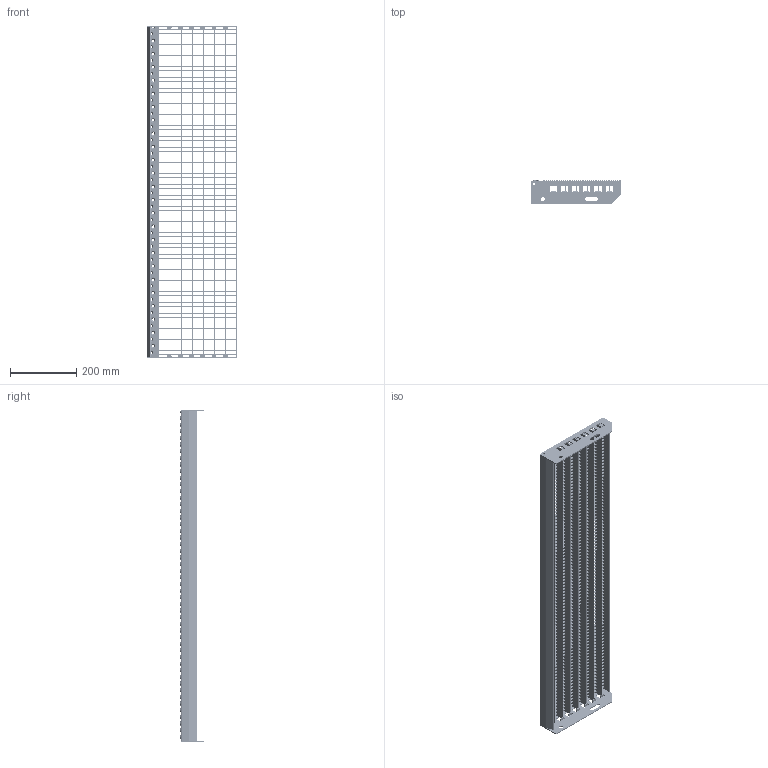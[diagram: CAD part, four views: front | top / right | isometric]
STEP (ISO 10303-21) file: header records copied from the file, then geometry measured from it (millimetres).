
FILE_DESCRIPTION(/* description */ ('','CAx-IF Rec.Pracs.---Representation and Presentation of Product Manufacturing Information (PMI)---3.8---2014-02-18'),/* implementation_level */ '2;1');
FILE_NAME(/* name */ 'C:\Users\phaverkotte\Desktop\Lager STEP\P-Stufen\PX42 230-33 11-2\PX42 230-33 11-2 1000mm x 270mm.stp',/* time_stamp */ '2018-03-24T10:58:53+01:00',/* author */ ('phaverkotte'),/* organization */ (''),/* preprocessor_version */ 'ST-DEVELOPER v16.13',/* originating_system */ 'Autodesk Inventor 2018',/* authorisation */ '');
FILE_SCHEMA (('AP242_MANAGED_MODEL_BASED_3D_ENGINEERING_MIM_LF { 1 0 10303 442 1 1 4 }'));
Length unit declared in the file: millimetre
Products named in the file (8): Schodišťový stupeň přím
ý lisovaný; Seitenplatte ausgeklinkt links; Seitenplatte 240 ausgeklinkt extern rechts; Schod nášlap; P Rošt schodu; Querstab; P Nosný pás; Hinteres Flach
Assembly tree (101 placements, depth 3):
  Schodišťový stupeň přím
ý lisovaný
    Seitenplatte ausgeklinkt links
    Seitenplatte 240 ausgeklinkt extern rechts
    Schod nášlap
    P Rošt schodu
      Querstab  x89
      P Nosný pás  x7
      Hinteres Flach
Bounding box: 270.31 x 72.75 x 1000 mm (x, y, z)
Volume: 1053786 mm3; surface area: 1188330.9 mm2
Topology: 100 solids, 100 shells, 18514 faces, 54771 edges, 36474 vertices
Faces by surface type: plane 18158, cone 150, cylinder 132, torus 50, bspline 24
Full cylindrical faces by diameter (mm): 8 x2, 13 x2
Entity records: 42223 total; most frequent: CARTESIAN_POINT 10806, ORIENTED_EDGE 6224, DIRECTION 6156, EDGE_CURVE 3112, LINE 2542, VECTOR 2542, VERTEX_POINT 2135, AXIS2_PLACEMENT_3D 1807
